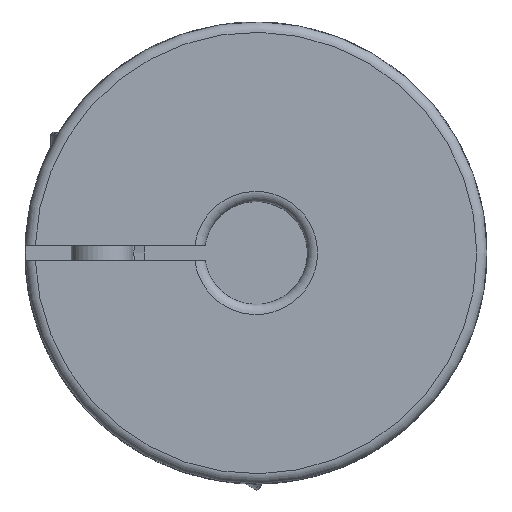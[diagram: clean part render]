
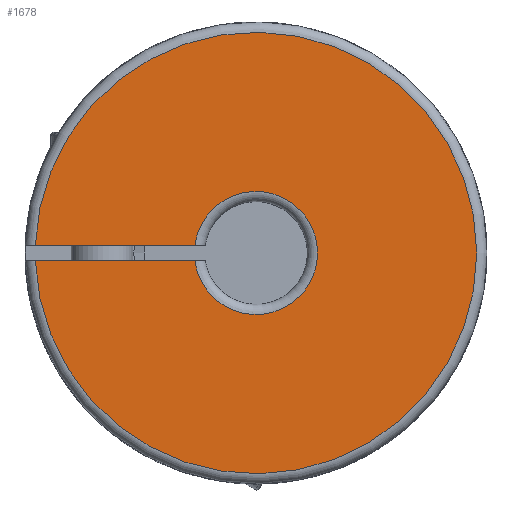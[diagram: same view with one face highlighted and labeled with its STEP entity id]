
A CAD part, front view. The second image highlights one B-rep face of the part: STEP entity #1678.
In plain terms, the highlighted planar face has unit normal (0, -1, 0) as drawn and (0, 0, -1) by its records, which use the part's own axes.
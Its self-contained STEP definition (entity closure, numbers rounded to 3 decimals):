
#38 = DIRECTION ( 'NONE',  ( 1., 0., 0. ) ) ;
#148 = CIRCLE ( 'NONE', #4106, 6. ) ;
#208 = PLANE ( 'NONE',  #1750 ) ;
#386 = VERTEX_POINT ( 'NONE', #467 ) ;
#467 = CARTESIAN_POINT ( 'NONE',  ( 21.487, 0.75, 0. ) ) ;
#671 = DIRECTION ( 'NONE',  ( 0., 0., 1. ) ) ;
#917 = VERTEX_POINT ( 'NONE', #996 ) ;
#918 = DIRECTION ( 'NONE',  ( -1., 0., 0. ) ) ;
#996 = CARTESIAN_POINT ( 'NONE',  ( 5.953, -0.75, 0. ) ) ;
#1030 = EDGE_LOOP ( 'NONE', ( #1530, #4785, #4614, #3439 ) ) ;
#1251 = EDGE_CURVE ( 'NONE', #5542, #386, #3650, .T. ) ;
#1305 = VERTEX_POINT ( 'NONE', #4163 ) ;
#1391 = CARTESIAN_POINT ( 'NONE',  ( 5.953, 0.75, 0. ) ) ;
#1497 = CARTESIAN_POINT ( 'NONE',  ( 0., 0., 0. ) ) ;
#1530 = ORIENTED_EDGE ( 'NONE', *, *, #1251, .F. ) ;
#1553 = DIRECTION ( 'NONE',  ( 0., 0., 1. ) ) ;
#1586 = VECTOR ( 'NONE', #38, 1000. ) ;
#1678 = ADVANCED_FACE ( 'NONE', ( #2400 ), #208, .F. ) ;
#1749 = CARTESIAN_POINT ( 'NONE',  ( 26., -0.75, 0. ) ) ;
#1750 = AXIS2_PLACEMENT_3D ( 'NONE', #1497, #671, #4129 ) ;
#1800 = AXIS2_PLACEMENT_3D ( 'NONE', #4993, #2804, #4623 ) ;
#2085 = CIRCLE ( 'NONE', #1800, 21.5 ) ;
#2165 = VECTOR ( 'NONE', #918, 1000. ) ;
#2400 = FACE_OUTER_BOUND ( 'NONE', #1030, .T. ) ;
#2751 = CARTESIAN_POINT ( 'NONE',  ( 26., 0.75, 0. ) ) ;
#2804 = DIRECTION ( 'NONE',  ( 0., 0., -1. ) ) ;
#2825 = CARTESIAN_POINT ( 'NONE',  ( 0., 0., 0. ) ) ;
#3304 = EDGE_CURVE ( 'NONE', #1305, #386, #2085, .T. ) ;
#3439 = ORIENTED_EDGE ( 'NONE', *, *, #3304, .T. ) ;
#3650 = LINE ( 'NONE', #2751, #1586 ) ;
#4001 = EDGE_CURVE ( 'NONE', #1305, #917, #4410, .T. ) ;
#4106 = AXIS2_PLACEMENT_3D ( 'NONE', #2825, #1553, #5066 ) ;
#4129 = DIRECTION ( 'NONE',  ( 1., 0., 0. ) ) ;
#4163 = CARTESIAN_POINT ( 'NONE',  ( 21.487, -0.75, 0. ) ) ;
#4231 = EDGE_CURVE ( 'NONE', #5542, #917, #148, .T. ) ;
#4410 = LINE ( 'NONE', #1749, #2165 ) ;
#4614 = ORIENTED_EDGE ( 'NONE', *, *, #4001, .F. ) ;
#4623 = DIRECTION ( 'NONE',  ( 1., 0., 0. ) ) ;
#4785 = ORIENTED_EDGE ( 'NONE', *, *, #4231, .T. ) ;
#4993 = CARTESIAN_POINT ( 'NONE',  ( 0., 0., 0. ) ) ;
#5066 = DIRECTION ( 'NONE',  ( 1., 0., 0. ) ) ;
#5542 = VERTEX_POINT ( 'NONE', #1391 ) ;
